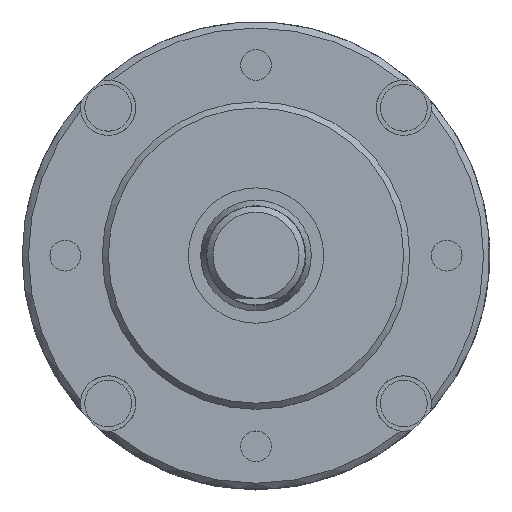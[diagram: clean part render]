
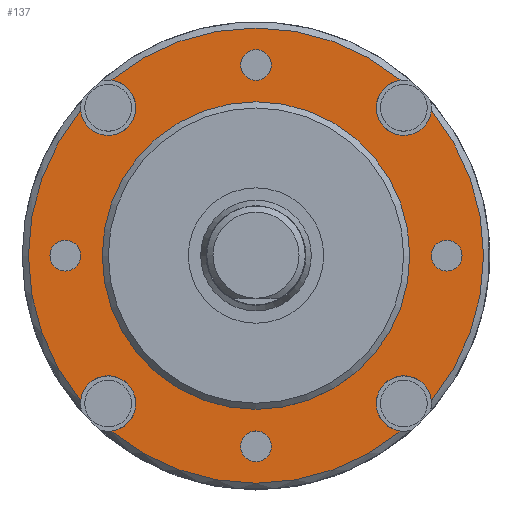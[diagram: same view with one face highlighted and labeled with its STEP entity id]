
A CAD part, top view. The second image highlights one B-rep face of the part: STEP entity #137.
In plain terms, the highlighted planar face has unit normal (0, 0, 1).
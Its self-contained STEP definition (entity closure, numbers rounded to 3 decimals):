
#104=PLANE('',#854);
#137=ADVANCED_FACE('',(#231,#232,#233,#234,#235,#236),#104,.T.);
#231=FACE_BOUND('',#317,.T.);
#232=FACE_BOUND('',#318,.T.);
#233=FACE_BOUND('',#319,.T.);
#234=FACE_BOUND('',#320,.T.);
#235=FACE_BOUND('',#321,.T.);
#236=FACE_BOUND('',#322,.T.);
#317=EDGE_LOOP('',(#439));
#318=EDGE_LOOP('',(#440));
#319=EDGE_LOOP('',(#441));
#320=EDGE_LOOP('',(#442));
#321=EDGE_LOOP('',(#443,#444,#445,#446,#447,#448,#449,#450));
#322=EDGE_LOOP('',(#451));
#439=ORIENTED_EDGE('',*,*,#688,.T.);
#440=ORIENTED_EDGE('',*,*,#689,.T.);
#441=ORIENTED_EDGE('',*,*,#690,.T.);
#442=ORIENTED_EDGE('',*,*,#691,.T.);
#443=ORIENTED_EDGE('',*,*,#692,.F.);
#444=ORIENTED_EDGE('',*,*,#693,.T.);
#445=ORIENTED_EDGE('',*,*,#694,.F.);
#446=ORIENTED_EDGE('',*,*,#695,.T.);
#447=ORIENTED_EDGE('',*,*,#696,.F.);
#448=ORIENTED_EDGE('',*,*,#697,.T.);
#449=ORIENTED_EDGE('',*,*,#698,.F.);
#450=ORIENTED_EDGE('',*,*,#699,.T.);
#451=ORIENTED_EDGE('',*,*,#687,.T.);
#614=VERTEX_POINT('',#1276);
#615=VERTEX_POINT('',#1279);
#616=VERTEX_POINT('',#1281);
#617=VERTEX_POINT('',#1283);
#618=VERTEX_POINT('',#1285);
#619=VERTEX_POINT('',#1287);
#620=VERTEX_POINT('',#1288);
#621=VERTEX_POINT('',#1290);
#622=VERTEX_POINT('',#1292);
#623=VERTEX_POINT('',#1294);
#624=VERTEX_POINT('',#1296);
#625=VERTEX_POINT('',#1298);
#626=VERTEX_POINT('',#1300);
#687=EDGE_CURVE('',#614,#614,#767,.T.);
#688=EDGE_CURVE('',#615,#615,#768,.T.);
#689=EDGE_CURVE('',#616,#616,#769,.T.);
#690=EDGE_CURVE('',#617,#617,#770,.T.);
#691=EDGE_CURVE('',#618,#618,#771,.T.);
#692=EDGE_CURVE('',#619,#620,#772,.T.);
#693=EDGE_CURVE('',#619,#621,#773,.T.);
#694=EDGE_CURVE('',#622,#621,#774,.T.);
#695=EDGE_CURVE('',#622,#623,#775,.T.);
#696=EDGE_CURVE('',#624,#623,#776,.T.);
#697=EDGE_CURVE('',#624,#625,#777,.T.);
#698=EDGE_CURVE('',#626,#625,#778,.T.);
#699=EDGE_CURVE('',#626,#620,#779,.T.);
#767=CIRCLE('',#840,12.5);
#768=CIRCLE('',#842,1.25);
#769=CIRCLE('',#843,1.25);
#770=CIRCLE('',#844,1.25);
#771=CIRCLE('',#845,1.25);
#772=CIRCLE('',#846,2.25);
#773=CIRCLE('',#847,18.5);
#774=CIRCLE('',#848,2.25);
#775=CIRCLE('',#849,18.5);
#776=CIRCLE('',#850,2.25);
#777=CIRCLE('',#851,18.5);
#778=CIRCLE('',#852,2.25);
#779=CIRCLE('',#853,18.5);
#840=AXIS2_PLACEMENT_3D('',#1275,#1002,#1003);
#842=AXIS2_PLACEMENT_3D('',#1278,#1006,#1007);
#843=AXIS2_PLACEMENT_3D('',#1280,#1008,#1009);
#844=AXIS2_PLACEMENT_3D('',#1282,#1010,#1011);
#845=AXIS2_PLACEMENT_3D('',#1284,#1012,#1013);
#846=AXIS2_PLACEMENT_3D('',#1286,#1014,#1015);
#847=AXIS2_PLACEMENT_3D('',#1289,#1016,#1017);
#848=AXIS2_PLACEMENT_3D('',#1291,#1018,#1019);
#849=AXIS2_PLACEMENT_3D('',#1293,#1020,#1021);
#850=AXIS2_PLACEMENT_3D('',#1295,#1022,#1023);
#851=AXIS2_PLACEMENT_3D('',#1297,#1024,#1025);
#852=AXIS2_PLACEMENT_3D('',#1299,#1026,#1027);
#853=AXIS2_PLACEMENT_3D('',#1301,#1028,#1029);
#854=AXIS2_PLACEMENT_3D('',#1302,#1030,#1031);
#1002=DIRECTION('',(0.,0.,-1.));
#1003=DIRECTION('',(1.,0.,0.));
#1006=DIRECTION('',(0.,0.,-1.));
#1007=DIRECTION('',(0.,1.,0.));
#1008=DIRECTION('',(0.,0.,-1.));
#1009=DIRECTION('',(1.,0.,0.));
#1010=DIRECTION('',(0.,0.,-1.));
#1011=DIRECTION('',(0.,-1.,0.));
#1012=DIRECTION('',(0.,0.,-1.));
#1013=DIRECTION('',(-1.,0.,0.));
#1014=DIRECTION('',(0.,0.,1.));
#1015=DIRECTION('',(1.,0.,0.));
#1016=DIRECTION('',(0.,0.,1.));
#1017=DIRECTION('',(1.,0.,0.));
#1018=DIRECTION('',(0.,0.,1.));
#1019=DIRECTION('',(0.,1.,0.));
#1020=DIRECTION('',(0.,0.,1.));
#1021=DIRECTION('',(1.,0.,0.));
#1022=DIRECTION('',(0.,0.,1.));
#1023=DIRECTION('',(-1.,0.,0.));
#1024=DIRECTION('',(0.,0.,1.));
#1025=DIRECTION('',(1.,0.,0.));
#1026=DIRECTION('',(0.,0.,1.));
#1027=DIRECTION('',(0.,-1.,0.));
#1028=DIRECTION('',(0.,0.,1.));
#1029=DIRECTION('',(1.,0.,0.));
#1030=DIRECTION('',(0.,0.,1.));
#1031=DIRECTION('',(1.,0.,0.));
#1275=CARTESIAN_POINT('',(0.,0.,0.));
#1276=CARTESIAN_POINT('',(12.5,0.,0.));
#1278=CARTESIAN_POINT('',(15.5,0.,0.));
#1279=CARTESIAN_POINT('',(15.5,1.25,0.));
#1280=CARTESIAN_POINT('',(0.,-15.5,0.));
#1281=CARTESIAN_POINT('',(1.25,-15.5,0.));
#1282=CARTESIAN_POINT('',(-15.5,0.,0.));
#1283=CARTESIAN_POINT('',(-15.5,-1.25,0.));
#1284=CARTESIAN_POINT('',(0.,15.5,0.));
#1285=CARTESIAN_POINT('',(-1.25,15.5,0.));
#1286=CARTESIAN_POINT('',(-12.021,12.021,0.));
#1287=CARTESIAN_POINT('',(-14.259,11.787,0.));
#1288=CARTESIAN_POINT('',(-11.787,14.259,0.));
#1289=CARTESIAN_POINT('',(0.,0.,0.));
#1290=CARTESIAN_POINT('',(-14.259,-11.787,0.));
#1291=CARTESIAN_POINT('',(-12.021,-12.021,0.));
#1292=CARTESIAN_POINT('',(-11.787,-14.259,0.));
#1293=CARTESIAN_POINT('',(0.,0.,0.));
#1294=CARTESIAN_POINT('',(11.787,-14.259,0.));
#1295=CARTESIAN_POINT('',(12.021,-12.021,0.));
#1296=CARTESIAN_POINT('',(14.259,-11.787,0.));
#1297=CARTESIAN_POINT('',(0.,0.,0.));
#1298=CARTESIAN_POINT('',(14.259,11.787,0.));
#1299=CARTESIAN_POINT('',(12.021,12.021,0.));
#1300=CARTESIAN_POINT('',(11.787,14.259,0.));
#1301=CARTESIAN_POINT('',(0.,0.,0.));
#1302=CARTESIAN_POINT('',(0.,0.,0.));
